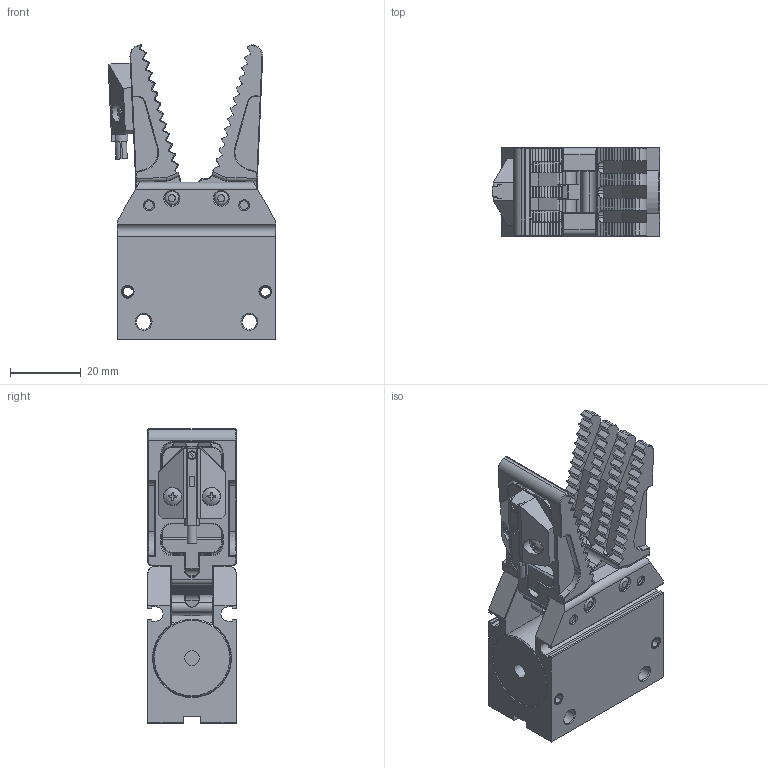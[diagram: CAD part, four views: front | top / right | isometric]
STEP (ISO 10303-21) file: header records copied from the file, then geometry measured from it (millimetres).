
FILE_DESCRIPTION(/* description */ (''),/* implementation_level */ '2;1');
FILE_NAME(/* name */ '_model1.stp',/* time_stamp */ '2023-03-08T18:17:44+08:00',/* author */ (''),/* organization */ (''),/* preprocessor_version */ 'ST-DEVELOPER v16',/* originating_system */ 'SIEMENS PLM Software NX 10.0',/* authorisation */ '');
FILE_SCHEMA (('AUTOMOTIVE_DESIGN { 1 0 10303 214 3 1 1 1 }'));
Products named in the file (1): Admi115498B06jnu
Bounding box: 47.55 x 25 x 83.56 mm (x, y, z)
Volume: 56343.4 mm3; surface area: 22159.2 mm2
Topology: 1 solids, 15 shells, 1585 faces, 4314 edges, 2758 vertices
Faces by surface type: plane 673, cylinder 493, cone 405, revolution 8, bspline 6
Full cylindrical faces by diameter (mm): 2 x3, 2.5 x19, 3 x91, 3.2 x4, 3.5 x4, 4 x10, 4.2 x6, 5 x2, 5.2 x2, 5.6 x2, 6.1 x2
Entity records: 58244 total; most frequent: CARTESIAN_POINT 10518, DIRECTION 7756, ORIENTED_EDGE 7142, EDGE_CURVE 3571, AXIS2_PLACEMENT_3D 2857, VERTEX_POINT 2419, EDGE_LOOP 2043, LINE 2034
